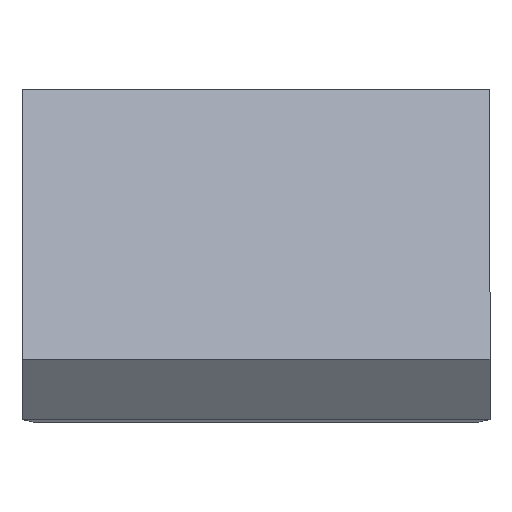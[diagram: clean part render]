
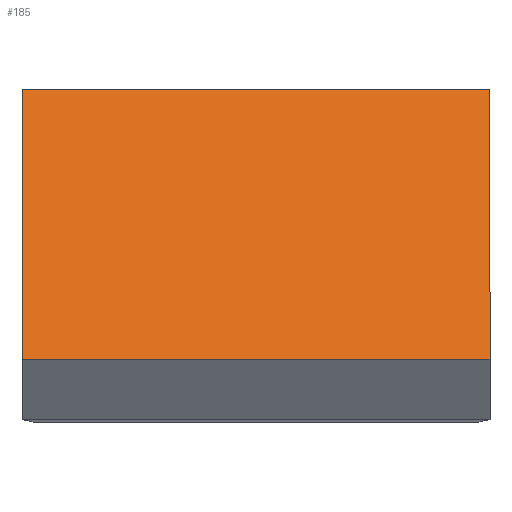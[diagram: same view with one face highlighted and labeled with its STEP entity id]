
A CAD part, isometric view. The second image highlights one B-rep face of the part: STEP entity #185.
In plain terms, the highlighted planar face has unit normal (0, 0, 1).
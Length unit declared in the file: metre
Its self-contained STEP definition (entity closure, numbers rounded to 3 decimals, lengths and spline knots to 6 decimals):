
#25=LINE('',#289,#45);
#28=LINE('',#295,#48);
#30=LINE('',#300,#50);
#31=LINE('',#302,#51);
#45=VECTOR('',#238,1.);
#48=VECTOR('',#243,1.);
#50=VECTOR('',#249,1.);
#51=VECTOR('',#252,1.);
#62=PLANE('',#204);
#103=ORIENTED_EDGE('',*,*,#128,.T.);
#104=ORIENTED_EDGE('',*,*,#122,.T.);
#105=ORIENTED_EDGE('',*,*,#125,.T.);
#106=ORIENTED_EDGE('',*,*,#127,.T.);
#122=EDGE_CURVE('',#140,#139,#25,.T.);
#125=EDGE_CURVE('',#139,#141,#28,.T.);
#127=EDGE_CURVE('',#141,#142,#30,.T.);
#128=EDGE_CURVE('',#142,#140,#31,.T.);
#139=VERTEX_POINT('',#288);
#140=VERTEX_POINT('',#290);
#141=VERTEX_POINT('',#294);
#142=VERTEX_POINT('',#299);
#158=EDGE_LOOP('',(#103,#104,#105,#106));
#172=FACE_BOUND('',#158,.T.);
#185=ADVANCED_FACE('',(#172),#62,.F.);
#204=AXIS2_PLACEMENT_3D('',#303,#253,#254);
#238=DIRECTION('',(-0.707,0.707,0.));
#243=DIRECTION('',(-0.707,-0.707,0.));
#249=DIRECTION('',(0.707,-0.707,0.));
#252=DIRECTION('',(0.707,0.707,0.));
#253=DIRECTION('',(0.,0.,-1.));
#254=DIRECTION('',(-1.,0.,0.));
#288=CARTESIAN_POINT('',(0.021398,0.00495,-0.03));
#289=CARTESIAN_POINT('',(0.026348,0.,-0.03));
#290=CARTESIAN_POINT('',(0.026348,0.,-0.03));
#294=CARTESIAN_POINT('',(0.016449,0.,-0.03));
#295=CARTESIAN_POINT('',(0.021398,0.00495,-0.03));
#299=CARTESIAN_POINT('',(0.021398,-0.00495,-0.03));
#300=CARTESIAN_POINT('',(0.016449,0.,-0.03));
#302=CARTESIAN_POINT('',(0.021398,-0.00495,-0.03));
#303=CARTESIAN_POINT('',(0.015498,0.,-0.03));
